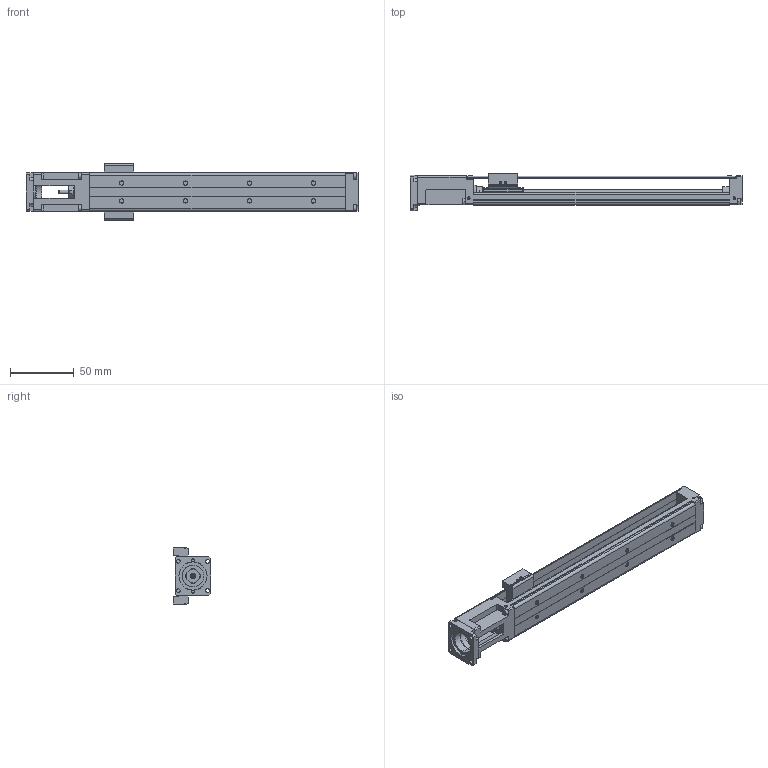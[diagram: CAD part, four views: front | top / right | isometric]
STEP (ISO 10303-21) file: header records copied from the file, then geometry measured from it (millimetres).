
FILE_DESCRIPTION (( 'STEP AP203' ), '1' );
FILE_NAME ('PA-15-200.STEP', '2010-06-10T13:12:45', ( 'render' ), ( '' ), 'SwSTEP 2.0', 'SolidWorks 2009', '' );
FILE_SCHEMA (( 'CONFIG_CONTROL_DESIGN' ));
Length unit declared in the file: millimetre
Products named in the file (1): PA-15-200
Bounding box: 260 x 29.5 x 44 mm (x, y, z)
Volume: 78310.5 mm3; surface area: 55381.8 mm2
Topology: 5 solids, 5 shells, 671 faces, 1745 edges, 1101 vertices
Faces by surface type: plane 307, cylinder 242, cone 110, bspline 12
Entity records: 20567 total; most frequent: CARTESIAN_POINT 3830, DIRECTION 3550, ORIENTED_EDGE 3402, EDGE_CURVE 1701, AXIS2_PLACEMENT_3D 1227, VERTEX_POINT 1101, LINE 1096, VECTOR 1096
